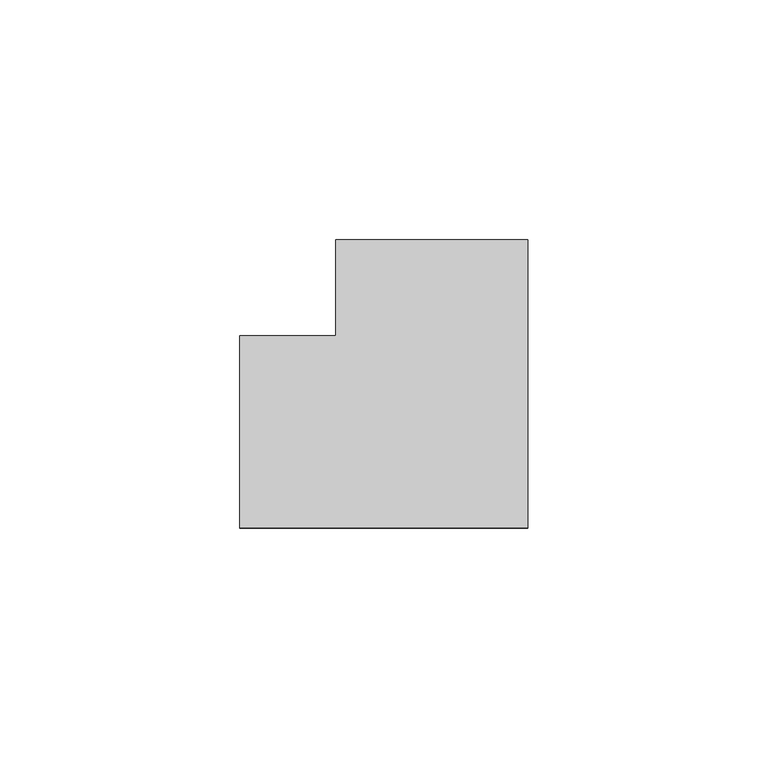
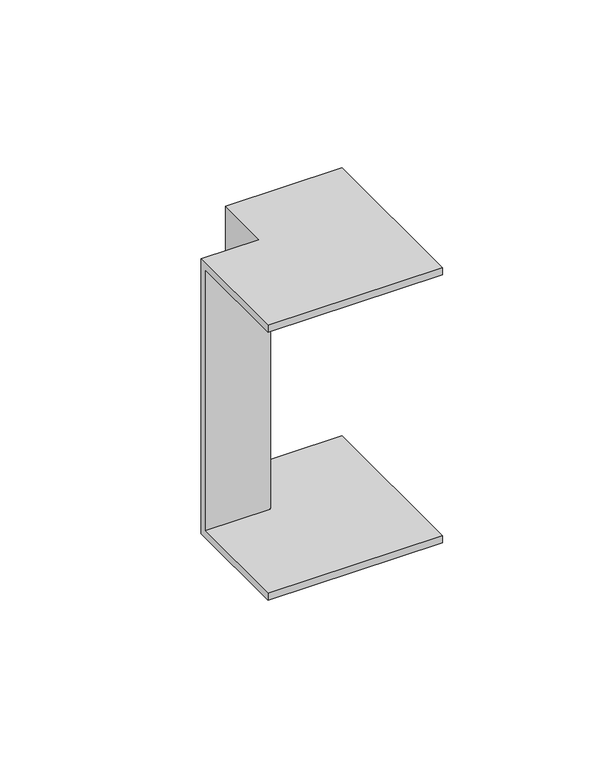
"""IFC4 building model written with IfcOpenShell, lengths in millimetres: cable carrier fitting geometry, КНС_УголВнешний_ILC_DKC : Угол внешний_DKC."""

from ifc_helpers import new_model, si_unit, origin, place, context, project, spatial, faceted_brep, source, transform, mapped, element, save


def cable_carrier_fitting_46b80188(model_context):
    return source(origin(), model_context, "Body", "Brep", [
        faceted_brep([(-40.0, 20.0, 50.0), (-40.0, 20.0, -50.0), (-40.0, -20.0, -50.0), (-40.0, -20.0, -47.5), (-40.0, 17.5, -47.5), (-40.0, 17.5, 47.5), (-40.0, -20.0, 47.5), (-40.0, -20.0, 50.0), (-20.0, 40.0, 50.0), (20.0, 40.0, 50.0), (20.0, 40.0, 47.5), (-17.5, 40.0, 47.5), (-17.5, 40.0, -47.5), (20.0, 40.0, -47.5), (20.0, 40.0, -50.0), (-20.0, 40.0, -50.0), (-20.0, 20.0, 50.0), (-20.0, 20.0, -50.0), (20.0, -20.0, -50.0), (20.0, -20.0, -47.5), (-17.5, 17.5, -47.5), (-17.5, 17.5, 47.5), (20.0, -20.0, 47.5), (20.0, -20.0, 50.0)], [[[0, 1, 2, 3, 4, 5, 6, 7]], [[8, 9, 10, 11, 12, 13, 14, 15]], [[1, 0, 16, 17]], [[2, 1, 17, 15, 14, 18]], [[3, 2, 18, 19]], [[4, 3, 19, 13, 12, 20]], [[5, 4, 20, 21]], [[6, 5, 21, 11, 10, 22]], [[7, 6, 22, 23]], [[0, 7, 23, 9, 8, 16]], [[17, 16, 8, 15]], [[19, 18, 14, 13]], [[21, 20, 12, 11]], [[23, 22, 10, 9]]]),
    ])


if __name__ == "__main__":
    model = new_model("IFC4")
    model_context = context("Model", 3, world=origin())
    ifc_project = project(units=[si_unit("LENGTHUNIT", "METRE", prefix="MILLI")], contexts=[model_context])
    site = spatial("IfcSite", under=ifc_project)
    building = spatial("IfcBuilding", under=site)
    placement = place(None, origin())
    cable_carrier_fitting_shape = cable_carrier_fitting_46b80188(model_context)
    element("IfcCableCarrierFitting", 1, ObjectType="КНС_УголВнешний_ILC_DKC : Угол внешний_DKC", at=placement, inside=building, context=model_context, shape_type="MappedRepresentation", body=[
        mapped(cable_carrier_fitting_shape, transform((0.0, 0.0, 0.0), x_axis=(1.0, 0.0, 0.0), y_axis=(0.0, 1.0, 0.0), z_axis=(0.0, 0.0, 1.0))),
    ])
    save(model, "model.ifc")
